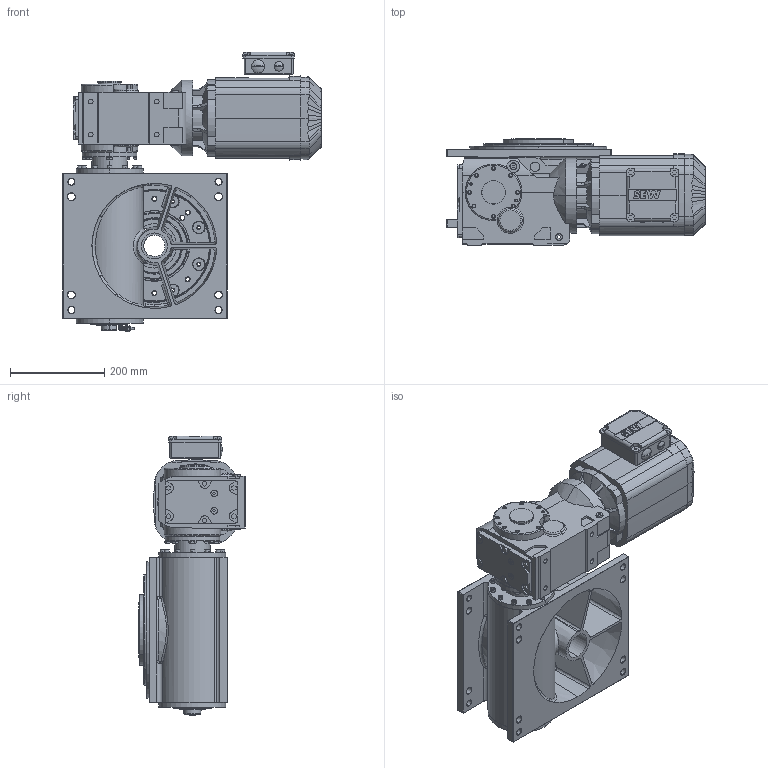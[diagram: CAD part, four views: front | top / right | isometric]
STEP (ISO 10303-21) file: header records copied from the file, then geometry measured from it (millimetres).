
FILE_DESCRIPTION (( 'STEP AP214' ), '1' );
FILE_NAME ('M235_SEW_KA47DRE90L4_D1_08.STEP', '2020-06-17T05:25:09', ( '' ), ( '' ), 'SwSTEP 2.0', 'SolidWorks 2020', '' );
FILE_SCHEMA (( 'AUTOMOTIVE_DESIGN' ));
Length unit declared in the file: millimetre
Products named in the file (1): M235_SEW_KA47DRE90L4_D1_08
Bounding box: 547.5 x 226 x 593.46 mm (x, y, z)
Surface area: 1169064.2 mm2 (no closed solid volume)
Topology: 0 solids, 89 shells, 1669 faces, 5037 edges, 3360 vertices
Faces by surface type: plane 658, cylinder 515, cone 255, bspline 134, torus 87, sphere 20
Entity records: 88594 total; most frequent: CARTESIAN_POINT 25996, DIRECTION 9319, ORIENTED_EDGE 8590, EDGE_CURVE 4997, AXIS2_PLACEMENT_3D 3423, VERTEX_POINT 3360, VECTOR 2473, LINE 2473
